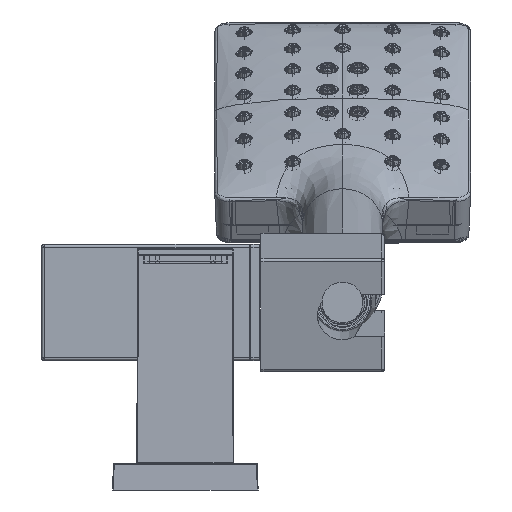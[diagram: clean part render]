
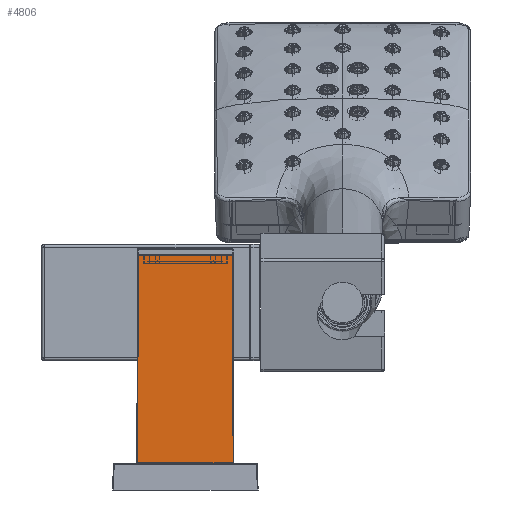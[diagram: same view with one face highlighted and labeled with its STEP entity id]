
A CAD part, front view. The second image highlights one B-rep face of the part: STEP entity #4806.
In plain terms, the highlighted planar face has unit normal (0, -1, 0.003).
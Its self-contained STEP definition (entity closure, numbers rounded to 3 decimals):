
#56 = DIRECTION ( 'NONE',  ( 1., 0., 0. ) ) ;
#4806 = ADVANCED_FACE ( 'NONE', ( #108368 ), #218403, .T. ) ;
#6726 = CARTESIAN_POINT ( 'NONE',  ( 16.4, -391.7, 9.299 ) ) ;
#11909 = LINE ( 'NONE', #167477, #196777 ) ;
#15905 = ORIENTED_EDGE ( 'NONE', *, *, #93870, .F. ) ;
#17636 = VECTOR ( 'NONE', #56, 1000. ) ;
#21679 = EDGE_LOOP ( 'NONE', ( #73414, #24166, #15905, #197060 ) ) ;
#24166 = ORIENTED_EDGE ( 'NONE', *, *, #110123, .F. ) ;
#25963 = CARTESIAN_POINT ( 'NONE',  ( -16.4, -391.7, 9.299 ) ) ;
#26997 = CARTESIAN_POINT ( 'NONE',  ( 16.4, -391.7, 9.299 ) ) ;
#29312 = LINE ( 'NONE', #249114, #17636 ) ;
#47176 = DIRECTION ( 'NONE',  ( -1., 0., 0. ) ) ;
#53032 = VECTOR ( 'NONE', #47176, 1000. ) ;
#73414 = ORIENTED_EDGE ( 'NONE', *, *, #245670, .T. ) ;
#79367 = CARTESIAN_POINT ( 'NONE',  ( -16.201, -391.501, 80.701 ) ) ;
#84391 = DIRECTION ( 'NONE',  ( 0., -1., 0.003 ) ) ;
#93870 = EDGE_CURVE ( 'NONE', #248828, #147183, #202713, .T. ) ;
#95482 = CARTESIAN_POINT ( 'NONE',  ( 16.201, -391.501, 80.701 ) ) ;
#102596 = VECTOR ( 'NONE', #205223, 1000. ) ;
#105902 = CARTESIAN_POINT ( 'NONE',  ( -18.79, -391.5, 81. ) ) ;
#108368 = FACE_OUTER_BOUND ( 'NONE', #21679, .T. ) ;
#110123 = EDGE_CURVE ( 'NONE', #147183, #111068, #184983, .T. ) ;
#111068 = VERTEX_POINT ( 'NONE', #25963 ) ;
#122343 = DIRECTION ( 'NONE',  ( 1., 0., 0. ) ) ;
#128073 = CARTESIAN_POINT ( 'NONE',  ( 16.201, -391.501, 80.701 ) ) ;
#147183 = VERTEX_POINT ( 'NONE', #26997 ) ;
#167477 = CARTESIAN_POINT ( 'NONE',  ( -16.201, -391.501, 80.701 ) ) ;
#172059 = AXIS2_PLACEMENT_3D ( 'NONE', #105902, #84391, #122343 ) ;
#184983 = LINE ( 'NONE', #6726, #53032 ) ;
#196777 = VECTOR ( 'NONE', #244515, 1000. ) ;
#197060 = ORIENTED_EDGE ( 'NONE', *, *, #213827, .F. ) ;
#202713 = LINE ( 'NONE', #128073, #102596 ) ;
#205223 = DIRECTION ( 'NONE',  ( 0.003, -0.003, -1. ) ) ;
#207514 = VERTEX_POINT ( 'NONE', #79367 ) ;
#213827 = EDGE_CURVE ( 'NONE', #207514, #248828, #29312, .T. ) ;
#218403 = PLANE ( 'NONE',  #172059 ) ;
#244515 = DIRECTION ( 'NONE',  ( -0.003, -0.003, -1. ) ) ;
#245670 = EDGE_CURVE ( 'NONE', #207514, #111068, #11909, .T. ) ;
#248828 = VERTEX_POINT ( 'NONE', #95482 ) ;
#249114 = CARTESIAN_POINT ( 'NONE',  ( -16.201, -391.501, 80.701 ) ) ;
